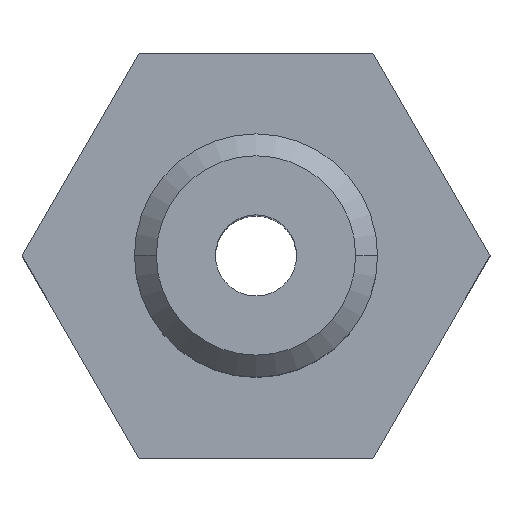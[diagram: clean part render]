
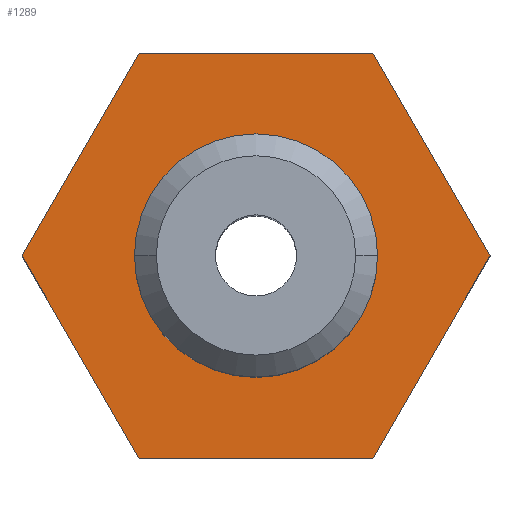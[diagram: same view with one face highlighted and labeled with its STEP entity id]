
A CAD part, top view. The second image highlights one B-rep face of the part: STEP entity #1289.
In plain terms, the highlighted planar face has unit normal (0, 0, 1).
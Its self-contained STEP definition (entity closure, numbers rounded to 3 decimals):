
#47 = ORIENTED_EDGE ( 'NONE', *, *, #51, .T. ) ;
#51 = EDGE_CURVE ( 'NONE', #1159, #161, #592, .T. ) ;
#126 = VERTEX_POINT ( 'NONE', #929 ) ;
#139 = ORIENTED_EDGE ( 'NONE', *, *, #529, .T. ) ;
#161 = VERTEX_POINT ( 'NONE', #1403 ) ;
#190 = EDGE_LOOP ( 'NONE', ( #139, #776 ) ) ;
#196 = VECTOR ( 'NONE', #1052, 1000. ) ;
#223 = EDGE_CURVE ( 'NONE', #126, #256, #1140, .T. ) ;
#256 = VERTEX_POINT ( 'NONE', #1518 ) ;
#385 = DIRECTION ( 'NONE',  ( 1., 0., 0. ) ) ;
#402 = LINE ( 'NONE', #1568, #1941 ) ;
#431 = CARTESIAN_POINT ( 'NONE',  ( 2.887, 0., 6. ) ) ;
#452 = LINE ( 'NONE', #983, #1596 ) ;
#478 = LINE ( 'NONE', #1573, #1921 ) ;
#507 = LINE ( 'NONE', #1129, #1608 ) ;
#520 = FACE_OUTER_BOUND ( 'NONE', #628, .T. ) ;
#526 = CARTESIAN_POINT ( 'NONE',  ( 0., 0., 6. ) ) ;
#529 = EDGE_CURVE ( 'NONE', #256, #126, #1503, .T. ) ;
#577 = VECTOR ( 'NONE', #1212, 1000. ) ;
#592 = LINE ( 'NONE', #431, #196 ) ;
#628 = EDGE_LOOP ( 'NONE', ( #1058, #759, #1137, #1336, #1793, #47 ) ) ;
#673 = CARTESIAN_POINT ( 'NONE',  ( -1.443, 2.5, 6. ) ) ;
#679 = DIRECTION ( 'NONE',  ( -0.5, -0.866, 0. ) ) ;
#696 = EDGE_CURVE ( 'NONE', #1586, #1159, #1631, .T. ) ;
#709 = DIRECTION ( 'NONE',  ( 0., 1., 0. ) ) ;
#759 = ORIENTED_EDGE ( 'NONE', *, *, #1662, .T. ) ;
#765 = DIRECTION ( 'NONE',  ( 0., 1., 0. ) ) ;
#776 = ORIENTED_EDGE ( 'NONE', *, *, #223, .T. ) ;
#781 = CARTESIAN_POINT ( 'NONE',  ( 1.875, 0., 6. ) ) ;
#794 = DIRECTION ( 'NONE',  ( 0., -1., 0. ) ) ;
#859 = CARTESIAN_POINT ( 'NONE',  ( 2.887, 0., 6. ) ) ;
#862 = CARTESIAN_POINT ( 'NONE',  ( 0., 0., 6. ) ) ;
#877 = AXIS2_PLACEMENT_3D ( 'NONE', #526, #1570, #765 ) ;
#929 = CARTESIAN_POINT ( 'NONE',  ( 0., -1.5, 6. ) ) ;
#970 = CARTESIAN_POINT ( 'NONE',  ( 1.443, -2.5, 6. ) ) ;
#983 = CARTESIAN_POINT ( 'NONE',  ( 1.875, -2.5, 6. ) ) ;
#990 = DIRECTION ( 'NONE',  ( -1., 0., 0. ) ) ;
#1052 = DIRECTION ( 'NONE',  ( -0.5, 0.866, 0. ) ) ;
#1058 = ORIENTED_EDGE ( 'NONE', *, *, #1060, .T. ) ;
#1060 = EDGE_CURVE ( 'NONE', #161, #1641, #507, .T. ) ;
#1086 = DIRECTION ( 'NONE',  ( 0., 0., 1. ) ) ;
#1129 = CARTESIAN_POINT ( 'NONE',  ( 1.875, 2.5, 6. ) ) ;
#1137 = ORIENTED_EDGE ( 'NONE', *, *, #1413, .T. ) ;
#1140 = CIRCLE ( 'NONE', #877, 1.5 ) ;
#1159 = VERTEX_POINT ( 'NONE', #859 ) ;
#1212 = DIRECTION ( 'NONE',  ( 0.5, 0.866, 0. ) ) ;
#1289 = ADVANCED_FACE ( 'NONE', ( #1314, #520 ), #1694, .T. ) ;
#1303 = VERTEX_POINT ( 'NONE', #1397 ) ;
#1314 = FACE_BOUND ( 'NONE', #190, .T. ) ;
#1336 = ORIENTED_EDGE ( 'NONE', *, *, #1639, .T. ) ;
#1397 = CARTESIAN_POINT ( 'NONE',  ( -1.443, -2.5, 6. ) ) ;
#1403 = CARTESIAN_POINT ( 'NONE',  ( 1.443, 2.5, 6. ) ) ;
#1413 = EDGE_CURVE ( 'NONE', #1481, #1303, #478, .T. ) ;
#1420 = DIRECTION ( 'NONE',  ( 0.5, -0.866, 0. ) ) ;
#1481 = VERTEX_POINT ( 'NONE', #1743 ) ;
#1503 = CIRCLE ( 'NONE', #1939, 1.5 ) ;
#1507 = CARTESIAN_POINT ( 'NONE',  ( 1.443, -2.5, 6. ) ) ;
#1518 = CARTESIAN_POINT ( 'NONE',  ( 0., 1.5, 6. ) ) ;
#1568 = CARTESIAN_POINT ( 'NONE',  ( -1.443, 2.5, 6. ) ) ;
#1570 = DIRECTION ( 'NONE',  ( 0., 0., -1. ) ) ;
#1573 = CARTESIAN_POINT ( 'NONE',  ( -2.887, 0., 6. ) ) ;
#1586 = VERTEX_POINT ( 'NONE', #970 ) ;
#1596 = VECTOR ( 'NONE', #385, 1000. ) ;
#1608 = VECTOR ( 'NONE', #990, 1000. ) ;
#1631 = LINE ( 'NONE', #1507, #577 ) ;
#1639 = EDGE_CURVE ( 'NONE', #1303, #1586, #452, .T. ) ;
#1641 = VERTEX_POINT ( 'NONE', #673 ) ;
#1662 = EDGE_CURVE ( 'NONE', #1641, #1481, #402, .T. ) ;
#1694 = PLANE ( 'NONE',  #1865 ) ;
#1743 = CARTESIAN_POINT ( 'NONE',  ( -2.887, 0., 6. ) ) ;
#1761 = DIRECTION ( 'NONE',  ( 0., 0., -1. ) ) ;
#1793 = ORIENTED_EDGE ( 'NONE', *, *, #696, .T. ) ;
#1865 = AXIS2_PLACEMENT_3D ( 'NONE', #781, #1086, #794 ) ;
#1921 = VECTOR ( 'NONE', #1420, 1000. ) ;
#1939 = AXIS2_PLACEMENT_3D ( 'NONE', #862, #1761, #709 ) ;
#1941 = VECTOR ( 'NONE', #679, 1000. ) ;
